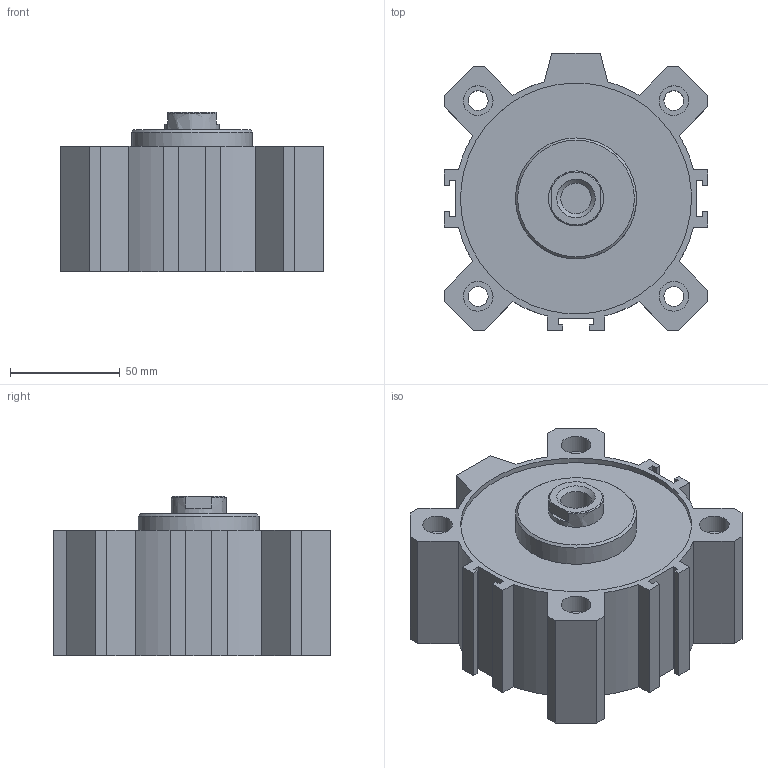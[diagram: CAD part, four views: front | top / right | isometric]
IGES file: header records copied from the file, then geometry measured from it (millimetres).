
Global section: file name: 1511_100_0005; native system: Autodesk Inventor 2014; preprocessor: unknown; author: A. Manieri; date: 20160824.162506; units: millimetre
Bounding box: 120 x 126 x 72.5 mm (x, y, z)
Volume: 615974.5 mm3; surface area: 119136.6 mm2
Topology: 2 solids, 2 shells, 119 faces, 307 edges, 210 vertices
Faces by surface type: bspline 119
